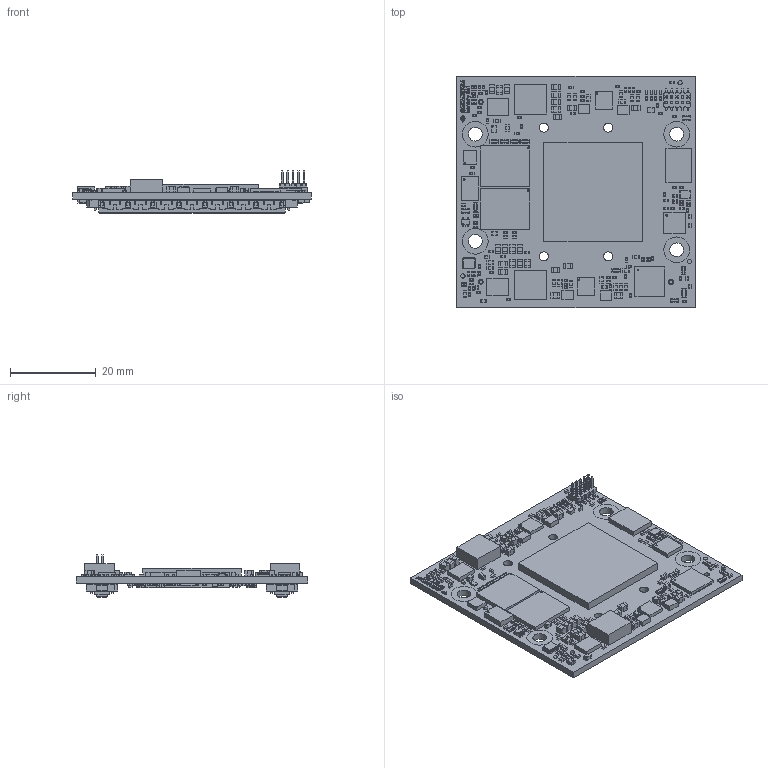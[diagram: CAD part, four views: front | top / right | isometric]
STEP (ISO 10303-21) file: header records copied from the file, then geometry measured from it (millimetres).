
FILE_DESCRIPTION(('Open CASCADE Model'),'2;1');
FILE_NAME('Open CASCADE Shape Model','2019-02-05T15:48:55',('Author'),( 'Open CASCADE'),'Open CASCADE STEP processor 6.8','Open CASCADE 6.8' ,'Unknown');
FILE_SCHEMA(('AUTOMOTIVE_DESIGN { 1 0 10303 214 1 1 1 1 }'));
Length unit declared in the file: millimetre
Products named in the file (501): --
Assembly tree (841 placements, depth 4):
  --
    --
    --
      --  x2
        --
      --
        --
      --
        --
      --
        --
      --
        --
      --
        --
      --
        --
    --
      --
    --
      --
    --
      --
    --
      --
    --
      --
    --
      --
    --
      --
    --
      --
    --
      --
    --
      --
    --
      --
    --
      --
    --
      --
    --
      --
    --
      --
    --
      --
    --
      --
    --
      --
    --
      --
    --
      --
    --
      --
    --
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Bounding box: 55.6 x 54 x 9.82 mm (x, y, z)
Volume: 8088.6 mm3; surface area: 15676.4 mm2
Topology: 997 solids, 1004 shells, 14474 faces, 34882 edges, 22781 vertices
Faces by surface type: plane 13451, extrusion 640, cylinder 349, sphere 22, cone 8, torus 4
Full cylindrical faces by diameter (mm): 0.2 x13, 0.3 x5, 0.4 x7, 1 x6, 1.1 x2, 1.2 x2, 2.1 x4, 3.2 x8, 6 x4
Entity records: 177160 total; most frequent: CARTESIAN_POINT 30182, ORIENTED_EDGE 23815, DIRECTION 21323, EDGE_CURVE 12011, VECTOR 10765, LINE 10202, VERTEX_POINT 7927, AXIS2_PLACEMENT_3D 5279
